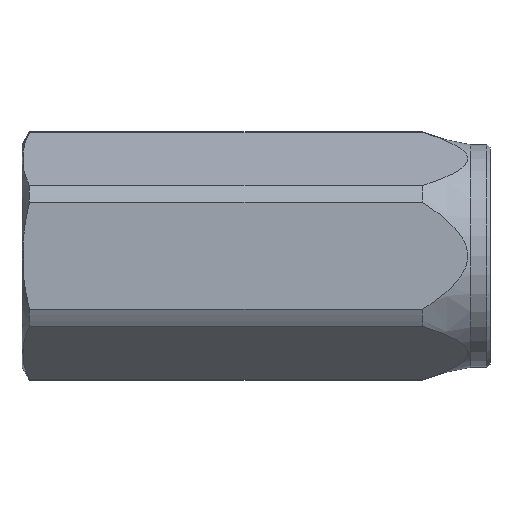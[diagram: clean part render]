
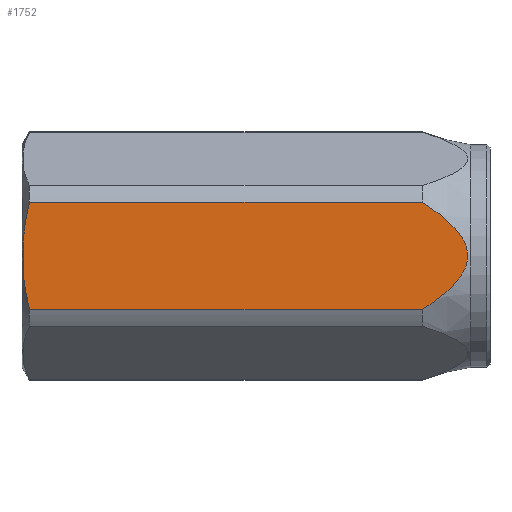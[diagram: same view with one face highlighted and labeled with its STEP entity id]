
A CAD part, top view. The second image highlights one B-rep face of the part: STEP entity #1752.
In plain terms, the highlighted planar face has unit normal (0, 0, 1).
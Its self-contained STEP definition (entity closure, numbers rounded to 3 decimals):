
#66 = CARTESIAN_POINT ( 'NONE',  ( 124.072, -16.574, 34.75 ) ) ;
#72 = CARTESIAN_POINT ( 'NONE',  ( 130.211, -12.291, 34.75 ) ) ;
#81 = CARTESIAN_POINT ( 'NONE',  ( 127.208, 14.553, 34.75 ) ) ;
#93 = CARTESIAN_POINT ( 'NONE',  ( 138.067, 0.948, 34.75 ) ) ;
#170 = LINE ( 'NONE', #1488, #2544 ) ;
#330 = B_SPLINE_CURVE_WITH_KNOTS ( 'NONE', 3,
 ( #1828, #1507, #3365, #3658, #865, #1481, #528, #4020, #1184, #2142, #2481, #843, #1159, #3354, #3054, #1785 ),
 .UNSPECIFIED., .F., .F.,
 ( 4, 2, 2, 2, 2, 2, 2, 4 ),
 ( 0.039, 0.043, 0.048, 0.056, 0.06, 0.062, 0.064, 0.073 ),
 .UNSPECIFIED. ) ;
#396 = CARTESIAN_POINT ( 'NONE',  ( 127.204, -14.555, 34.75 ) ) ;
#412 = CARTESIAN_POINT ( 'NONE',  ( 138.021, -0.951, 34.75 ) ) ;
#430 = CARTESIAN_POINT ( 'NONE',  ( 134.321, 8.443, 34.75 ) ) ;
#473 = LINE ( 'NONE', #1597, #3783 ) ;
#528 = CARTESIAN_POINT ( 'NONE',  ( 0.145, -2.797, 34.75 ) ) ;
#639 = ORIENTED_EDGE ( 'NONE', *, *, #3848, .F. ) ;
#702 = CARTESIAN_POINT ( 'NONE',  ( 137.888, -1.886, 34.75 ) ) ;
#714 = CARTESIAN_POINT ( 'NONE',  ( 135.515, -6.964, 34.75 ) ) ;
#728 = CARTESIAN_POINT ( 'NONE',  ( 138.058, -0.477, 34.75 ) ) ;
#800 = DIRECTION ( 'NONE',  ( 0., 0., -1. ) ) ;
#824 = CARTESIAN_POINT ( 'NONE',  ( 124.072, 16.574, 34.75 ) ) ;
#843 = CARTESIAN_POINT ( 'NONE',  ( 0.542, 6.987, 34.75 ) ) ;
#865 = CARTESIAN_POINT ( 'NONE',  ( 0.899, -9.712, 34.75 ) ) ;
#927 = VERTEX_POINT ( 'NONE', #1365 ) ;
#1015 = CARTESIAN_POINT ( 'NONE',  ( 131.653, -11.078, 34.75 ) ) ;
#1027 = CARTESIAN_POINT ( 'NONE',  ( 125.654, 15.589, 34.75 ) ) ;
#1040 = EDGE_CURVE ( 'NONE', #927, #1921, #330, .T. ) ;
#1048 = CARTESIAN_POINT ( 'NONE',  ( 137.345, -3.698, 34.75 ) ) ;
#1159 = CARTESIAN_POINT ( 'NONE',  ( 0.625, 7.683, 34.75 ) ) ;
#1184 = CARTESIAN_POINT ( 'NONE',  ( 0.193, 2.783, 34.75 ) ) ;
#1233 = ORIENTED_EDGE ( 'NONE', *, *, #3154, .F. ) ;
#1340 = CARTESIAN_POINT ( 'NONE',  ( 132.351, 10.449, 34.75 ) ) ;
#1358 = CARTESIAN_POINT ( 'NONE',  ( 130.213, 12.289, 34.75 ) ) ;
#1365 = CARTESIAN_POINT ( 'NONE',  ( 2.309, -16.574, 34.75 ) ) ;
#1375 = CARTESIAN_POINT ( 'NONE',  ( 136.75, -4.982, 34.75 ) ) ;
#1441 = PLANE ( 'NONE',  #2412 ) ;
#1481 = CARTESIAN_POINT ( 'NONE',  ( 0.341, -5.571, 34.75 ) ) ;
#1488 = CARTESIAN_POINT ( 'NONE',  ( 0., -16.574, 34.75 ) ) ;
#1507 = CARTESIAN_POINT ( 'NONE',  ( 1.971, -15.213, 34.75 ) ) ;
#1597 = CARTESIAN_POINT ( 'NONE',  ( 0., 16.574, 34.75 ) ) ;
#1641 = CARTESIAN_POINT ( 'NONE',  ( 133.693, -9.124, 34.75 ) ) ;
#1659 = CARTESIAN_POINT ( 'NONE',  ( 137.347, 3.691, 34.75 ) ) ;
#1671 = CARTESIAN_POINT ( 'NONE',  ( 136.968, 4.553, 34.75 ) ) ;
#1686 = CARTESIAN_POINT ( 'NONE',  ( 137.513, 3.246, 34.75 ) ) ;
#1752 = ADVANCED_FACE ( 'NONE', ( #2844 ), #1441, .F. ) ;
#1785 = CARTESIAN_POINT ( 'NONE',  ( 2.309, 16.574, 34.75 ) ) ;
#1828 = CARTESIAN_POINT ( 'NONE',  ( 2.309, -16.574, 34.75 ) ) ;
#1870 = VERTEX_POINT ( 'NONE', #824 ) ;
#1919 = DIRECTION ( 'NONE',  ( -1., 0., 0. ) ) ;
#1921 = VERTEX_POINT ( 'NONE', #3990 ) ;
#1967 = CARTESIAN_POINT ( 'NONE',  ( 137.922, 1.878, 34.75 ) ) ;
#1987 = CARTESIAN_POINT ( 'NONE',  ( 124.072, 16.574, 34.75 ) ) ;
#2052 = CARTESIAN_POINT ( 'NONE',  ( 145., 20.063, 34.75 ) ) ;
#2142 = CARTESIAN_POINT ( 'NONE',  ( 0.338, 4.885, 34.75 ) ) ;
#2154 = EDGE_LOOP ( 'NONE', ( #1233, #3831, #639, #3819 ) ) ;
#2200 = B_SPLINE_CURVE_WITH_KNOTS ( 'NONE', 3,
 ( #1987, #1027, #81, #3518, #1358, #2948, #1340, #3838, #430, #2305, #3546, #2291, #1671, #1659, #1686, #1967, #93, #2932, #728, #412, #2910, #702, #3853, #2609, #1048, #2624, #1375, #3560, #714, #3230, #1641, #3822, #1015, #72, #2276, #396, #2599, #66 ),
 .UNSPECIFIED., .F., .F.,
 ( 4, 2, 2, 2, 2, 2, 2, 2, 2, 2, 2, 2, 2, 2, 2, 2, 2, 2, 4 ),
 ( 0.023, 0.029, 0.031, 0.034, 0.037, 0.04, 0.041, 0.042, 0.045, 0.046, 0.047, 0.048, 0.049, 0.051, 0.054, 0.056, 0.059, 0.062, 0.068 ),
 .UNSPECIFIED. ) ;
#2276 = CARTESIAN_POINT ( 'NONE',  ( 129.467, -12.874, 34.75 ) ) ;
#2291 = CARTESIAN_POINT ( 'NONE',  ( 136.755, 4.971, 34.75 ) ) ;
#2305 = CARTESIAN_POINT ( 'NONE',  ( 135.505, 6.978, 34.75 ) ) ;
#2412 = AXIS2_PLACEMENT_3D ( 'NONE', #2052, #800, #3586 ) ;
#2481 = CARTESIAN_POINT ( 'NONE',  ( 0.398, 5.588, 34.75 ) ) ;
#2544 = VECTOR ( 'NONE', #1919, 1000. ) ;
#2599 = CARTESIAN_POINT ( 'NONE',  ( 125.652, -15.59, 34.75 ) ) ;
#2609 = CARTESIAN_POINT ( 'NONE',  ( 137.512, -3.249, 34.75 ) ) ;
#2624 = CARTESIAN_POINT ( 'NONE',  ( 136.963, -4.564, 34.75 ) ) ;
#2808 = CARTESIAN_POINT ( 'NONE',  ( 124.072, -16.574, 34.75 ) ) ;
#2844 = FACE_OUTER_BOUND ( 'NONE', #2154, .T. ) ;
#2910 = CARTESIAN_POINT ( 'NONE',  ( 137.994, -1.186, 34.75 ) ) ;
#2932 = CARTESIAN_POINT ( 'NONE',  ( 138.067, -0.238, 34.75 ) ) ;
#2948 = CARTESIAN_POINT ( 'NONE',  ( 131.654, 11.078, 34.75 ) ) ;
#2967 = VERTEX_POINT ( 'NONE', #2808 ) ;
#3054 = CARTESIAN_POINT ( 'NONE',  ( 1.64, 13.88, 34.75 ) ) ;
#3154 = EDGE_CURVE ( 'NONE', #2967, #927, #170, .T. ) ;
#3230 = CARTESIAN_POINT ( 'NONE',  ( 134.336, -8.426, 34.75 ) ) ;
#3354 = CARTESIAN_POINT ( 'NONE',  ( 1.094, 11.152, 34.75 ) ) ;
#3365 = CARTESIAN_POINT ( 'NONE',  ( 1.664, -13.838, 34.75 ) ) ;
#3457 = DIRECTION ( 'NONE',  ( 1., 0., 0. ) ) ;
#3518 = CARTESIAN_POINT ( 'NONE',  ( 129.469, 12.873, 34.75 ) ) ;
#3546 = CARTESIAN_POINT ( 'NONE',  ( 136.055, 6.197, 34.75 ) ) ;
#3560 = CARTESIAN_POINT ( 'NONE',  ( 136.053, -6.2, 34.75 ) ) ;
#3586 = DIRECTION ( 'NONE',  ( -1., 0., 0. ) ) ;
#3658 = CARTESIAN_POINT ( 'NONE',  ( 1.128, -11.09, 34.75 ) ) ;
#3783 = VECTOR ( 'NONE', #3457, 1000. ) ;
#3819 = ORIENTED_EDGE ( 'NONE', *, *, #1040, .F. ) ;
#3822 = CARTESIAN_POINT ( 'NONE',  ( 132.353, -10.448, 34.75 ) ) ;
#3831 = ORIENTED_EDGE ( 'NONE', *, *, #3891, .F. ) ;
#3838 = CARTESIAN_POINT ( 'NONE',  ( 133.685, 9.132, 34.75 ) ) ;
#3848 = EDGE_CURVE ( 'NONE', #1921, #1870, #473, .T. ) ;
#3853 = CARTESIAN_POINT ( 'NONE',  ( 137.783, -2.345, 34.75 ) ) ;
#3891 = EDGE_CURVE ( 'NONE', #1870, #2967, #2200, .T. ) ;
#3990 = CARTESIAN_POINT ( 'NONE',  ( 2.309, 16.574, 34.75 ) ) ;
#4020 = CARTESIAN_POINT ( 'NONE',  ( 0.144, 1.385, 34.75 ) ) ;
